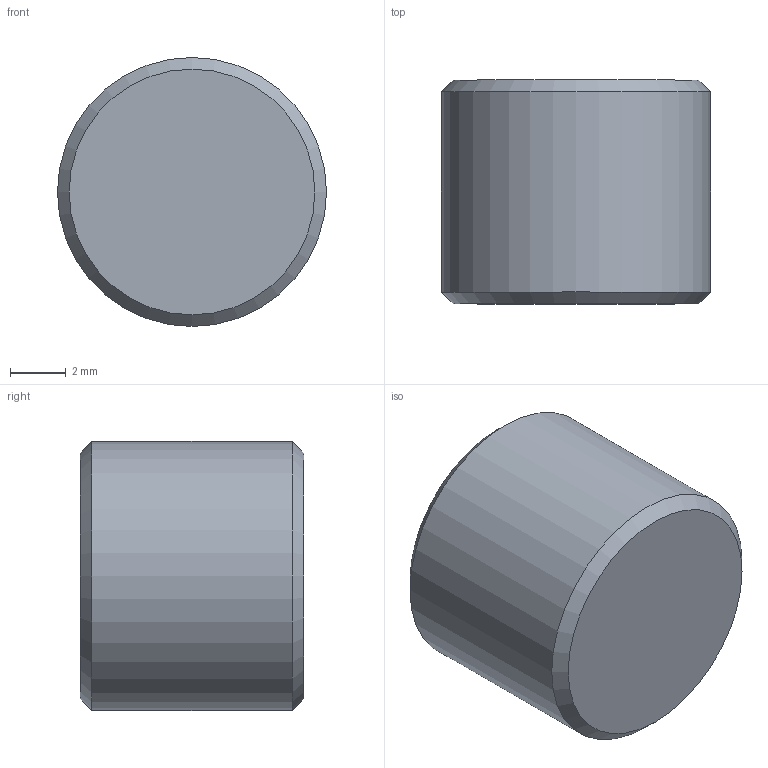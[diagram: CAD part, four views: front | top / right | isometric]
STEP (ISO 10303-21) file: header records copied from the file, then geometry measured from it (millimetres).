
FILE_DESCRIPTION(/* description */ (''),/* implementation_level */ '2;1');
FILE_NAME(/* name */ 'C:/Users/drich/Desktop/cad/Plugs/BSPT Pipe Plugs/Steel/SF-BSPT-18 v1.step',/* time_stamp */ '2020-01-10T13:00:45-06:00',/* author */ (''),/* organization */ (''),/* preprocessor_version */ 'ST-DEVELOPER v18',/* originating_system */ 'Autodesk Translation Framework v8.12.0.6',/* authorisation */ '');
FILE_SCHEMA (('AUTOMOTIVE_DESIGN { 1 0 10303 214 3 1 1 }'));
Length unit declared in the file: inch
Products named in the file (1): SF-BSPT-18
Bounding box: 9.62 x 8 x 9.62 mm (x, y, z)
Volume: 498.4 mm3; surface area: 434.6 mm2
Topology: 1 solids, 1 shells, 13 faces, 35 edges, 25 vertices
Faces by surface type: plane 9, cone 3, cylinder 1
Full cylindrical faces by diameter (mm): 9.621 x1
Entity records: 439 total; most frequent: CARTESIAN_POINT 98, ORIENTED_EDGE 70, DIRECTION 58, EDGE_CURVE 35, VERTEX_POINT 25, AXIS2_PLACEMENT_3D 21, LINE 16, VECTOR 16
